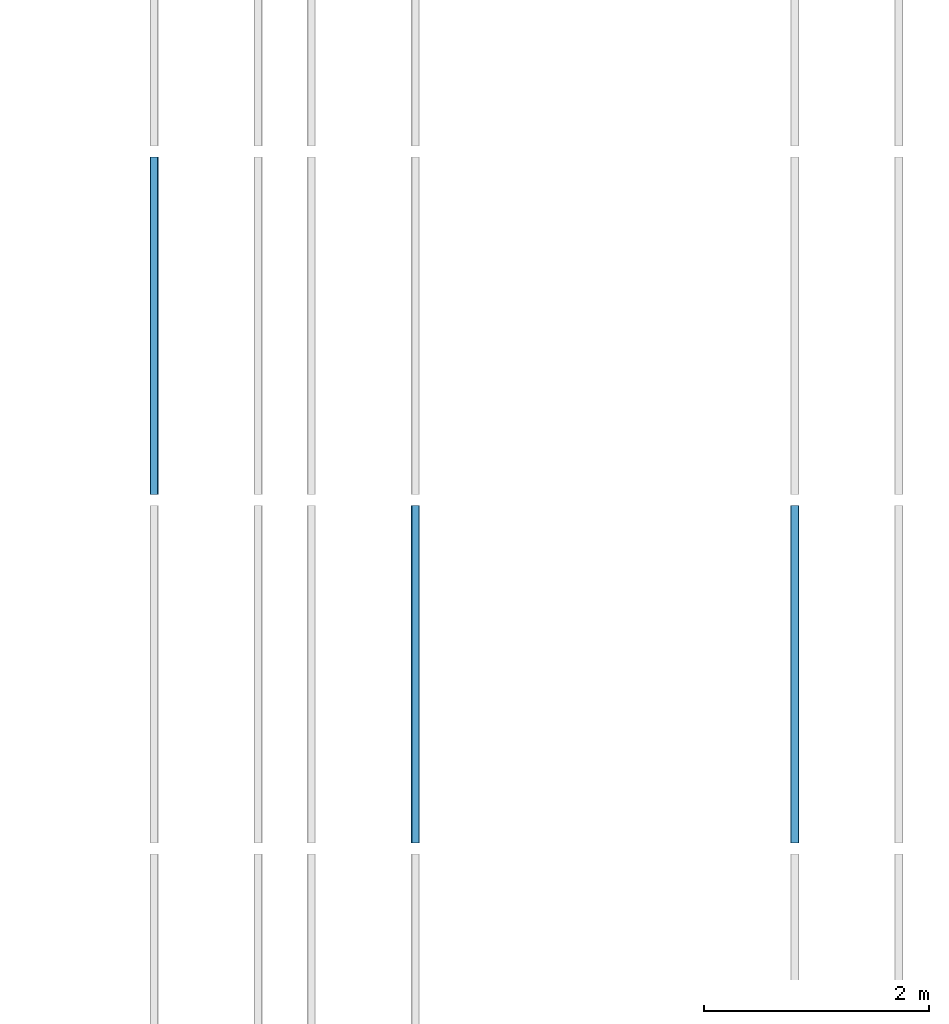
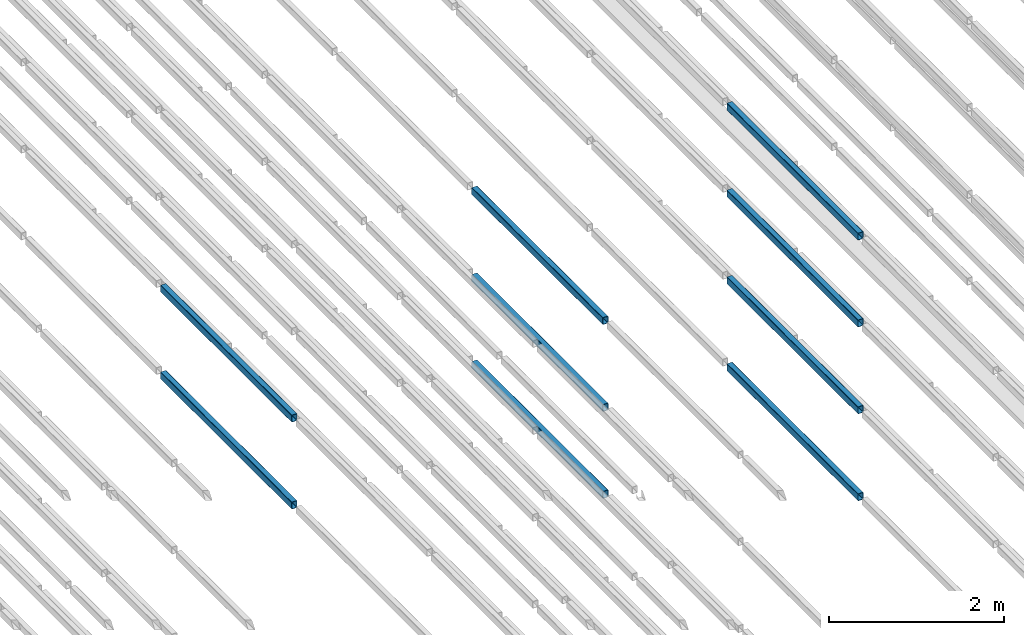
# One storey, part 72 of 290: 9 beams.
"""IFC2X3 building model written with IfcOpenShell, lengths in metres."""

from ifc_helpers import new_model, entity, si_unit, converted_unit, derived_unit, direction, frame, frame_2d, origin, place, context, subcontext, project, spatial, polyline, circle_curve, parameter, trimmed, segment, composite_curve, outline, extrude, material, type_object, element, save


model = new_model("IFC2X3")

# Units and contexts
model_context = context("Model", 3, precision=1e-05, world=origin(), true_north=direction((6.12303176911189e-17, 1.0)))
body_context = subcontext(model_context, "Body", "Model", "MODEL_VIEW")
ifc_project = project(units=[si_unit("LENGTHUNIT", "METRE"), si_unit("AREAUNIT", "SQUARE_METRE"), si_unit("VOLUMEUNIT", "CUBIC_METRE"), converted_unit("PLANEANGLEUNIT", "DEGREE", entity("IfcRatioMeasure", 0.0174532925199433), si_unit("PLANEANGLEUNIT", "RADIAN"), dimensions=[0, 0, 0, 0, 0, 0, 0]), si_unit("MASSUNIT", "GRAM", prefix="KILO"), derived_unit("MASSDENSITYUNIT", [(si_unit("MASSUNIT", "GRAM", prefix="KILO"), 1), (si_unit("LENGTHUNIT", "METRE"), -3)]), derived_unit("MOMENTOFINERTIAUNIT", [(si_unit("LENGTHUNIT", "METRE"), 4)]), si_unit("TIMEUNIT", "SECOND"), si_unit("FREQUENCYUNIT", "HERTZ"), si_unit("THERMODYNAMICTEMPERATUREUNIT", "DEGREE_CELSIUS"), derived_unit("THERMALTRANSMITTANCEUNIT", [(si_unit("MASSUNIT", "GRAM", prefix="KILO"), 1), (si_unit("THERMODYNAMICTEMPERATUREUNIT", "KELVIN"), -1), (si_unit("TIMEUNIT", "SECOND"), -3)]), derived_unit("VOLUMETRICFLOWRATEUNIT", [(si_unit("LENGTHUNIT", "METRE"), 3), (si_unit("TIMEUNIT", "SECOND"), -1)]), si_unit("ELECTRICCURRENTUNIT", "AMPERE"), si_unit("ELECTRICVOLTAGEUNIT", "VOLT"), si_unit("POWERUNIT", "WATT"), si_unit("FORCEUNIT", "NEWTON", prefix="KILO"), si_unit("ILLUMINANCEUNIT", "LUX"), si_unit("LUMINOUSFLUXUNIT", "LUMEN"), si_unit("LUMINOUSINTENSITYUNIT", "CANDELA"), derived_unit("USERDEFINED", [(si_unit("MASSUNIT", "GRAM", prefix="KILO"), -1), (si_unit("LENGTHUNIT", "METRE"), -2), (si_unit("TIMEUNIT", "SECOND"), 3), (si_unit("LUMINOUSFLUXUNIT", "LUMEN"), 1)]), derived_unit("LINEARVELOCITYUNIT", [(si_unit("LENGTHUNIT", "METRE"), 1), (si_unit("TIMEUNIT", "SECOND"), -1)]), si_unit("PRESSUREUNIT", "PASCAL"), derived_unit("USERDEFINED", [(si_unit("LENGTHUNIT", "METRE"), -2), (si_unit("MASSUNIT", "GRAM", prefix="KILO"), 1), (si_unit("TIMEUNIT", "SECOND"), -2)]), derived_unit("LINEARFORCEUNIT", [(si_unit("MASSUNIT", "GRAM", prefix="KILO"), 1), (si_unit("LENGTHUNIT", "METRE"), 1), (si_unit("TIMEUNIT", "SECOND"), -2), (si_unit("LENGTHUNIT", "METRE"), -1)]), derived_unit("PLANARFORCEUNIT", [(si_unit("MASSUNIT", "GRAM", prefix="KILO"), 1), (si_unit("LENGTHUNIT", "METRE"), 1), (si_unit("TIMEUNIT", "SECOND"), -2), (si_unit("LENGTHUNIT", "METRE"), -2)])], contexts=[model_context])

# Site, building, storey
site_placement = place(None, origin())
site = spatial("IfcSite", under=ifc_project, at=site_placement, Name="Default", CompositionType="ELEMENT")
building_placement = place(site_placement, origin())
building = spatial("IfcBuilding", under=site, at=building_placement, CompositionType="ELEMENT")
storey_placement = place(building_placement, frame((0.0, 0.0, 4.0)))
storey = spatial("IfcBuildingStorey", under=building, at=storey_placement, Name="01_OG", CompositionType="ELEMENT", Elevation=4.0)

# Beams
ifc_material = material(Name="Metall - Baustahl S235 blau")
beam_type = type_object("IfcBeamType", Name="RHS Träger (EN 10219-2):RHS 100 x 75 x 5", PredefinedType="NOTDEFINED")
beam_1_placement = place(storey_placement, frame((-182.765111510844, 33.348088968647, 0.0150000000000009), z_axis=(0.0, 0.0, 1.0), x_axis=(0.0, 1.0, 0.0)))
element("IfcBeam", 1, at=beam_1_placement, inside=storey, type_object=beam_type, material=ifc_material, Name="RHS Träger (EN 10219-2):RHS 100 x 75 x 5", ObjectType="RHS Träger (EN 10219-2):RHS 100 x 75 x 5", context=body_context, shape_type="SweptSolid", body=[
    extrude(outline(composite_curve([segment(polyline([(-0.0400000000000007, -0.0374999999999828), (0.0399999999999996, -0.0374999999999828)]), True, "CONTINUOUS"), segment(trimmed(circle_curve(frame_2d((0.0399999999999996, -0.0274999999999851), x_axis=(0.0, 1.0)), 0.01), [parameter(180.0)], [parameter(270.0)], True, "PARAMETER"), True, "CONTINUOUS"), segment(polyline([(0.0499999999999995, -0.0274999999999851), (0.0499999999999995, 0.0274999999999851)]), True, "CONTINUOUS"), segment(trimmed(circle_curve(frame_2d((0.0399999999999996, 0.0274999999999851), x_axis=(0.0, 1.0)), 0.01), [parameter(270.0)], [parameter(4.07110999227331e-13)], True, "PARAMETER"), True, "CONTINUOUS"), segment(polyline([(0.0399999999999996, 0.0375000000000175), (-0.0400000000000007, 0.0375000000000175)]), True, "CONTINUOUS"), segment(trimmed(circle_curve(frame_2d((-0.0400000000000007, 0.0274999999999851), x_axis=(0.0, 1.0)), 0.01), [parameter(360.0)], [parameter(90.0000000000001)], True, "PARAMETER"), True, "CONTINUOUS"), segment(polyline([(-0.0500000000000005, 0.0274999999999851), (-0.0500000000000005, -0.0274999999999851)]), True, "CONTINUOUS"), segment(trimmed(circle_curve(frame_2d((-0.0400000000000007, -0.0274999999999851), x_axis=(0.0, 1.0)), 0.01), [parameter(90.0000000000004)], [parameter(180.0)], True, "PARAMETER"), True, "CONTINUOUS")], self_intersect=False), holes=[composite_curve([segment(trimmed(circle_curve(frame_2d((-0.0400000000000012, 0.0274999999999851), x_axis=(0.0, 1.0)), 0.005), [parameter(360.0)], [parameter(89.9999999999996)], True, "PARAMETER"), False, "CONTINUOUS"), segment(polyline([(-0.0400000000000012, 0.0325000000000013), (0.0399999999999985, 0.0325000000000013)]), True, "CONTINUOUS"), segment(trimmed(circle_curve(frame_2d((0.0399999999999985, 0.0274999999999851), x_axis=(0.0, 1.0)), 0.005), [parameter(270.0)], [parameter(0.0)], True, "PARAMETER"), False, "CONTINUOUS"), segment(polyline([(0.0449999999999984, 0.0274999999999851), (0.0449999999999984, -0.0274999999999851)]), True, "CONTINUOUS"), segment(trimmed(circle_curve(frame_2d((0.0399999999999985, -0.0274999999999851), x_axis=(0.0, 1.0)), 0.005), [parameter(180.0)], [parameter(269.999999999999)], True, "PARAMETER"), False, "CONTINUOUS"), segment(polyline([(0.0399999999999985, -0.0325000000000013), (-0.0400000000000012, -0.0325000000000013)]), True, "CONTINUOUS"), segment(trimmed(circle_curve(frame_2d((-0.0400000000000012, -0.0274999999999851), x_axis=(0.0, 1.0)), 0.005), [parameter(90.0000000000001)], [parameter(180.0)], True, "PARAMETER"), False, "CONTINUOUS"), segment(polyline([(-0.0450000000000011, -0.0274999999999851), (-0.0450000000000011, 0.0274999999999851)]), True, "CONTINUOUS")], self_intersect=False)]), frame((9.9999999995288e-05, -0.0375000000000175, -0.0500000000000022), z_axis=(1.0, 0.0, 0.0), x_axis=(0.0, 0.0, -1.0)), (0.0, 0.0, 1.0), 2.9998),
])
beam_2_placement = place(storey_placement, frame((-182.765111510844, 33.348088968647, 1.23), z_axis=(0.0, 0.0, 1.0), x_axis=(0.0, 1.0, 0.0)))
element("IfcBeam", 2, at=beam_2_placement, inside=storey, type_object=beam_type, material=ifc_material, Name="RHS Träger (EN 10219-2):RHS 100 x 75 x 5", ObjectType="RHS Träger (EN 10219-2):RHS 100 x 75 x 5", context=body_context, shape_type="SweptSolid", body=[
    extrude(outline(composite_curve([segment(polyline([(-0.0399999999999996, -0.0374999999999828), (0.0399999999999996, -0.0374999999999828)]), True, "CONTINUOUS"), segment(trimmed(circle_curve(frame_2d((0.0399999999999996, -0.0274999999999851), x_axis=(0.0, 1.0)), 0.01), [parameter(180.0)], [parameter(270.0)], True, "PARAMETER"), True, "CONTINUOUS"), segment(polyline([(0.0500000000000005, -0.0274999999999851), (0.0500000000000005, 0.0274999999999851)]), True, "CONTINUOUS"), segment(trimmed(circle_curve(frame_2d((0.0399999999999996, 0.0274999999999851), x_axis=(0.0, 1.0)), 0.01), [parameter(270.0)], [parameter(4.07110999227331e-13)], True, "PARAMETER"), True, "CONTINUOUS"), segment(polyline([(0.0399999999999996, 0.0375000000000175), (-0.0399999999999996, 0.0375000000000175)]), True, "CONTINUOUS"), segment(trimmed(circle_curve(frame_2d((-0.0399999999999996, 0.0274999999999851), x_axis=(0.0, 1.0)), 0.01), [parameter(360.0)], [parameter(90.0000000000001)], True, "PARAMETER"), True, "CONTINUOUS"), segment(polyline([(-0.0499999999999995, 0.0274999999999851), (-0.0499999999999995, -0.0274999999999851)]), True, "CONTINUOUS"), segment(trimmed(circle_curve(frame_2d((-0.0399999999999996, -0.0274999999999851), x_axis=(0.0, 1.0)), 0.01), [parameter(90.0000000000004)], [parameter(180.0)], True, "PARAMETER"), True, "CONTINUOUS")], self_intersect=False), holes=[composite_curve([segment(trimmed(circle_curve(frame_2d((-0.0400000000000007, 0.0274999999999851), x_axis=(0.0, 1.0)), 0.005), [parameter(360.0)], [parameter(89.9999999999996)], True, "PARAMETER"), False, "CONTINUOUS"), segment(polyline([(-0.0400000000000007, 0.0325000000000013), (0.0399999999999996, 0.0325000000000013)]), True, "CONTINUOUS"), segment(trimmed(circle_curve(frame_2d((0.0399999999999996, 0.0274999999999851), x_axis=(0.0, 1.0)), 0.005), [parameter(270.0)], [parameter(0.0)], True, "PARAMETER"), False, "CONTINUOUS"), segment(polyline([(0.0449999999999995, 0.0274999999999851), (0.0449999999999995, -0.0274999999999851)]), True, "CONTINUOUS"), segment(trimmed(circle_curve(frame_2d((0.0399999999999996, -0.0274999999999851), x_axis=(0.0, 1.0)), 0.005), [parameter(180.0)], [parameter(269.999999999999)], True, "PARAMETER"), False, "CONTINUOUS"), segment(polyline([(0.0399999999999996, -0.0325000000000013), (-0.0400000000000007, -0.0325000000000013)]), True, "CONTINUOUS"), segment(trimmed(circle_curve(frame_2d((-0.0400000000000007, -0.0274999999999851), x_axis=(0.0, 1.0)), 0.005), [parameter(90.0000000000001)], [parameter(180.0)], True, "PARAMETER"), False, "CONTINUOUS"), segment(polyline([(-0.0450000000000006, -0.0274999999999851), (-0.0450000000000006, 0.0274999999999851)]), True, "CONTINUOUS")], self_intersect=False)]), frame((9.99999999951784e-05, -0.0375000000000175, -0.0500000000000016), z_axis=(1.0, 0.0, 0.0), x_axis=(0.0, 0.0, -1.0)), (0.0, 0.0, 1.0), 2.9998),
])
beam_3_placement = place(storey_placement, frame((-182.765111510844, 33.348088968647, 2.445), z_axis=(0.0, 0.0, 1.0), x_axis=(0.0, 1.0, 0.0)))
element("IfcBeam", 3, at=beam_3_placement, inside=storey, type_object=beam_type, material=ifc_material, Name="RHS Träger (EN 10219-2):RHS 100 x 75 x 5", ObjectType="RHS Träger (EN 10219-2):RHS 100 x 75 x 5", context=body_context, shape_type="SweptSolid", body=[
    extrude(outline(composite_curve([segment(polyline([(-0.0399999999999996, -0.0374999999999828), (0.0399999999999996, -0.0374999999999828)]), True, "CONTINUOUS"), segment(trimmed(circle_curve(frame_2d((0.0399999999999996, -0.0274999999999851), x_axis=(0.0, 1.0)), 0.01), [parameter(180.0)], [parameter(270.0)], True, "PARAMETER"), True, "CONTINUOUS"), segment(polyline([(0.0500000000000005, -0.0274999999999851), (0.0500000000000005, 0.0274999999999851)]), True, "CONTINUOUS"), segment(trimmed(circle_curve(frame_2d((0.0399999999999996, 0.0274999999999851), x_axis=(0.0, 1.0)), 0.01), [parameter(270.0)], [parameter(4.07110999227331e-13)], True, "PARAMETER"), True, "CONTINUOUS"), segment(polyline([(0.0399999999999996, 0.0375000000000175), (-0.0399999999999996, 0.0375000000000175)]), True, "CONTINUOUS"), segment(trimmed(circle_curve(frame_2d((-0.0399999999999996, 0.0274999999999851), x_axis=(0.0, 1.0)), 0.01), [parameter(360.0)], [parameter(90.0000000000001)], True, "PARAMETER"), True, "CONTINUOUS"), segment(polyline([(-0.0499999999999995, 0.0274999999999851), (-0.0499999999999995, -0.0274999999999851)]), True, "CONTINUOUS"), segment(trimmed(circle_curve(frame_2d((-0.0399999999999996, -0.0274999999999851), x_axis=(0.0, 1.0)), 0.01), [parameter(90.0000000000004)], [parameter(180.0)], True, "PARAMETER"), True, "CONTINUOUS")], self_intersect=False), holes=[composite_curve([segment(trimmed(circle_curve(frame_2d((-0.0400000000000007, 0.0274999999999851), x_axis=(0.0, 1.0)), 0.005), [parameter(360.0)], [parameter(89.9999999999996)], True, "PARAMETER"), False, "CONTINUOUS"), segment(polyline([(-0.0400000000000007, 0.0325000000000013), (0.0399999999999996, 0.0325000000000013)]), True, "CONTINUOUS"), segment(trimmed(circle_curve(frame_2d((0.0399999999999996, 0.0274999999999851), x_axis=(0.0, 1.0)), 0.005), [parameter(270.0)], [parameter(0.0)], True, "PARAMETER"), False, "CONTINUOUS"), segment(polyline([(0.0449999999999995, 0.0274999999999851), (0.0449999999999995, -0.0274999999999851)]), True, "CONTINUOUS"), segment(trimmed(circle_curve(frame_2d((0.0399999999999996, -0.0274999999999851), x_axis=(0.0, 1.0)), 0.005), [parameter(180.0)], [parameter(269.999999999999)], True, "PARAMETER"), False, "CONTINUOUS"), segment(polyline([(0.0399999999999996, -0.0325000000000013), (-0.0400000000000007, -0.0325000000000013)]), True, "CONTINUOUS"), segment(trimmed(circle_curve(frame_2d((-0.0400000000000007, -0.0274999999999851), x_axis=(0.0, 1.0)), 0.005), [parameter(90.0000000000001)], [parameter(180.0)], True, "PARAMETER"), False, "CONTINUOUS"), segment(polyline([(-0.0450000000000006, -0.0274999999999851), (-0.0450000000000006, 0.0274999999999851)]), True, "CONTINUOUS")], self_intersect=False)]), frame((9.99999999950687e-05, -0.0375000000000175, -0.0500000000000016), z_axis=(1.0, 0.0, 0.0), x_axis=(0.0, 0.0, -1.0)), (0.0, 0.0, 1.0), 2.9998),
])
beam_4_placement = place(storey_placement, frame((-179.315111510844, 33.3480889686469, -1.2), z_axis=(0.0, 0.0, 1.0), x_axis=(0.0, 1.0, 0.0)))
element("IfcBeam", 4, at=beam_4_placement, inside=storey, type_object=beam_type, material=ifc_material, Name="RHS Träger (EN 10219-2):RHS 100 x 75 x 5", ObjectType="RHS Träger (EN 10219-2):RHS 100 x 75 x 5", context=body_context, shape_type="SweptSolid", body=[
    extrude(outline(composite_curve([segment(trimmed(circle_curve(frame_2d((-0.0274999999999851, -0.0400000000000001), x_axis=(1.0, 0.0)), 0.01), [parameter(180.0)], [parameter(270.0)], True, "PARAMETER"), True, "CONTINUOUS"), segment(polyline([(-0.0274999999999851, -0.05), (0.0274999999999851, -0.05)]), True, "CONTINUOUS"), segment(trimmed(circle_curve(frame_2d((0.0274999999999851, -0.0400000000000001), x_axis=(1.0, 0.0)), 0.01), [parameter(270.0)], [parameter(5.08888749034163e-14)], True, "PARAMETER"), True, "CONTINUOUS"), segment(polyline([(0.0375000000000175, -0.0400000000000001), (0.0375000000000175, 0.0400000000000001)]), True, "CONTINUOUS"), segment(trimmed(circle_curve(frame_2d((0.0274999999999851, 0.0400000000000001), x_axis=(1.0, 0.0)), 0.01), [parameter(360.0)], [parameter(89.9999999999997)], True, "PARAMETER"), True, "CONTINUOUS"), segment(polyline([(0.0274999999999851, 0.05), (-0.0274999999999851, 0.05)]), True, "CONTINUOUS"), segment(trimmed(circle_curve(frame_2d((-0.0274999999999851, 0.0400000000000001), x_axis=(1.0, 0.0)), 0.01), [parameter(90.0000000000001)], [parameter(180.0)], True, "PARAMETER"), True, "CONTINUOUS"), segment(polyline([(-0.0374999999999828, 0.0400000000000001), (-0.0374999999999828, -0.0400000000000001)]), True, "CONTINUOUS")], self_intersect=False), holes=[composite_curve([segment(polyline([(0.0274999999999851, -0.0450000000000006), (-0.0274999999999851, -0.0450000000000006)]), True, "CONTINUOUS"), segment(trimmed(circle_curve(frame_2d((-0.0274999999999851, -0.0400000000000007), x_axis=(1.0, 0.0)), 0.005), [parameter(180.0)], [parameter(270.0)], True, "PARAMETER"), False, "CONTINUOUS"), segment(polyline([(-0.0325000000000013, -0.0400000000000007), (-0.0325000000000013, 0.039999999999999)]), True, "CONTINUOUS"), segment(trimmed(circle_curve(frame_2d((-0.0274999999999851, 0.039999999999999), x_axis=(1.0, 0.0)), 0.005), [parameter(90.0000000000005)], [parameter(180.0)], True, "PARAMETER"), False, "CONTINUOUS"), segment(polyline([(-0.0274999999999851, 0.044999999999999), (0.0274999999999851, 0.044999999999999)]), True, "CONTINUOUS"), segment(trimmed(circle_curve(frame_2d((0.0274999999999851, 0.039999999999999), x_axis=(1.0, 0.0)), 0.005), [parameter(0.0)], [parameter(90.0000000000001)], True, "PARAMETER"), False, "CONTINUOUS"), segment(polyline([(0.0325000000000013, 0.039999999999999), (0.0325000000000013, -0.0400000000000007)]), True, "CONTINUOUS"), segment(trimmed(circle_curve(frame_2d((0.0274999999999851, -0.0400000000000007), x_axis=(1.0, 0.0)), 0.005), [parameter(270.0)], [parameter(4.07110999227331e-13)], True, "PARAMETER"), False, "CONTINUOUS")], self_intersect=False)]), frame((9.99999999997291e-05, 0.0375000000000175, -0.0500000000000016), z_axis=(1.0, 0.0, 0.0), x_axis=(0.0, -1.0, 0.0)), (0.0, 0.0, 1.0), 2.9998),
])
beam_5_placement = place(storey_placement, frame((-179.315111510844, 33.3480889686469, 0.0150000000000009), z_axis=(0.0, 0.0, 1.0), x_axis=(0.0, 1.0, 0.0)))
element("IfcBeam", 5, at=beam_5_placement, inside=storey, type_object=beam_type, material=ifc_material, Name="RHS Träger (EN 10219-2):RHS 100 x 75 x 5", ObjectType="RHS Träger (EN 10219-2):RHS 100 x 75 x 5", context=body_context, shape_type="SweptSolid", body=[
    extrude(outline(composite_curve([segment(trimmed(circle_curve(frame_2d((-0.0274999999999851, -0.0400000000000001), x_axis=(1.0, 0.0)), 0.01), [parameter(180.0)], [parameter(270.0)], True, "PARAMETER"), True, "CONTINUOUS"), segment(polyline([(-0.0274999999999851, -0.05), (0.0274999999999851, -0.05)]), True, "CONTINUOUS"), segment(trimmed(circle_curve(frame_2d((0.0274999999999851, -0.0400000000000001), x_axis=(1.0, 0.0)), 0.01), [parameter(270.0)], [parameter(5.08888749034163e-14)], True, "PARAMETER"), True, "CONTINUOUS"), segment(polyline([(0.0375000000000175, -0.0400000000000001), (0.0375000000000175, 0.0400000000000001)]), True, "CONTINUOUS"), segment(trimmed(circle_curve(frame_2d((0.0274999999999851, 0.0400000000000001), x_axis=(1.0, 0.0)), 0.01), [parameter(360.0)], [parameter(89.9999999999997)], True, "PARAMETER"), True, "CONTINUOUS"), segment(polyline([(0.0274999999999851, 0.05), (-0.0274999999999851, 0.05)]), True, "CONTINUOUS"), segment(trimmed(circle_curve(frame_2d((-0.0274999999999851, 0.0400000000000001), x_axis=(1.0, 0.0)), 0.01), [parameter(90.0000000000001)], [parameter(180.0)], True, "PARAMETER"), True, "CONTINUOUS"), segment(polyline([(-0.0374999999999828, 0.0400000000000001), (-0.0374999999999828, -0.0400000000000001)]), True, "CONTINUOUS")], self_intersect=False), holes=[composite_curve([segment(polyline([(0.0274999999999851, -0.0450000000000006), (-0.0274999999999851, -0.0450000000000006)]), True, "CONTINUOUS"), segment(trimmed(circle_curve(frame_2d((-0.0274999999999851, -0.0400000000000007), x_axis=(1.0, 0.0)), 0.005), [parameter(180.0)], [parameter(270.0)], True, "PARAMETER"), False, "CONTINUOUS"), segment(polyline([(-0.0325000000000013, -0.0400000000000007), (-0.0325000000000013, 0.039999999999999)]), True, "CONTINUOUS"), segment(trimmed(circle_curve(frame_2d((-0.0274999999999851, 0.039999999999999), x_axis=(1.0, 0.0)), 0.005), [parameter(90.0000000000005)], [parameter(180.0)], True, "PARAMETER"), False, "CONTINUOUS"), segment(polyline([(-0.0274999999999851, 0.044999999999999), (0.0274999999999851, 0.044999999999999)]), True, "CONTINUOUS"), segment(trimmed(circle_curve(frame_2d((0.0274999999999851, 0.039999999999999), x_axis=(1.0, 0.0)), 0.005), [parameter(0.0)], [parameter(90.0000000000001)], True, "PARAMETER"), False, "CONTINUOUS"), segment(polyline([(0.0325000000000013, 0.039999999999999), (0.0325000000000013, -0.0400000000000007)]), True, "CONTINUOUS"), segment(trimmed(circle_curve(frame_2d((0.0274999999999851, -0.0400000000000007), x_axis=(1.0, 0.0)), 0.005), [parameter(270.0)], [parameter(4.07110999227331e-13)], True, "PARAMETER"), False, "CONTINUOUS")], self_intersect=False)]), frame((9.99999999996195e-05, 0.0375000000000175, -0.0500000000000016), z_axis=(1.0, 0.0, 0.0), x_axis=(0.0, -1.0, 0.0)), (0.0, 0.0, 1.0), 2.9998),
])
beam_6_placement = place(storey_placement, frame((-179.315111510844, 33.3480889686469, 1.23), z_axis=(0.0, 0.0, 1.0), x_axis=(0.0, 1.0, 0.0)))
element("IfcBeam", 6, at=beam_6_placement, inside=storey, type_object=beam_type, material=ifc_material, Name="RHS Träger (EN 10219-2):RHS 100 x 75 x 5", ObjectType="RHS Träger (EN 10219-2):RHS 100 x 75 x 5", context=body_context, shape_type="SweptSolid", body=[
    extrude(outline(composite_curve([segment(trimmed(circle_curve(frame_2d((-0.0274999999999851, -0.0399999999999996), x_axis=(1.0, 0.0)), 0.01), [parameter(180.0)], [parameter(270.0)], True, "PARAMETER"), True, "CONTINUOUS"), segment(polyline([(-0.0274999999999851, -0.0499999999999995), (0.0274999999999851, -0.0499999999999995)]), True, "CONTINUOUS"), segment(trimmed(circle_curve(frame_2d((0.0274999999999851, -0.0399999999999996), x_axis=(1.0, 0.0)), 0.01), [parameter(270.0)], [parameter(5.08888749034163e-14)], True, "PARAMETER"), True, "CONTINUOUS"), segment(polyline([(0.0375000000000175, -0.0399999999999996), (0.0375000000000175, 0.0399999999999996)]), True, "CONTINUOUS"), segment(trimmed(circle_curve(frame_2d((0.0274999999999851, 0.0399999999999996), x_axis=(1.0, 0.0)), 0.01), [parameter(360.0)], [parameter(89.9999999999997)], True, "PARAMETER"), True, "CONTINUOUS"), segment(polyline([(0.0274999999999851, 0.0500000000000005), (-0.0274999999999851, 0.0500000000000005)]), True, "CONTINUOUS"), segment(trimmed(circle_curve(frame_2d((-0.0274999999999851, 0.0399999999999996), x_axis=(1.0, 0.0)), 0.01), [parameter(90.0000000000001)], [parameter(180.0)], True, "PARAMETER"), True, "CONTINUOUS"), segment(polyline([(-0.0374999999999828, 0.0399999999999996), (-0.0374999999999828, -0.0399999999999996)]), True, "CONTINUOUS")], self_intersect=False), holes=[composite_curve([segment(polyline([(0.0274999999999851, -0.0450000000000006), (-0.0274999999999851, -0.0450000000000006)]), True, "CONTINUOUS"), segment(trimmed(circle_curve(frame_2d((-0.0274999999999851, -0.0400000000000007), x_axis=(1.0, 0.0)), 0.005), [parameter(180.0)], [parameter(270.0)], True, "PARAMETER"), False, "CONTINUOUS"), segment(polyline([(-0.0325000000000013, -0.0400000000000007), (-0.0325000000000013, 0.0399999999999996)]), True, "CONTINUOUS"), segment(trimmed(circle_curve(frame_2d((-0.0274999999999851, 0.0399999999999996), x_axis=(1.0, 0.0)), 0.005), [parameter(90.0000000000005)], [parameter(180.0)], True, "PARAMETER"), False, "CONTINUOUS"), segment(polyline([(-0.0274999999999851, 0.0449999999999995), (0.0274999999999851, 0.0449999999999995)]), True, "CONTINUOUS"), segment(trimmed(circle_curve(frame_2d((0.0274999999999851, 0.0399999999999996), x_axis=(1.0, 0.0)), 0.005), [parameter(0.0)], [parameter(90.0000000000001)], True, "PARAMETER"), False, "CONTINUOUS"), segment(polyline([(0.0325000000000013, 0.0399999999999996), (0.0325000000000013, -0.0400000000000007)]), True, "CONTINUOUS"), segment(trimmed(circle_curve(frame_2d((0.0274999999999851, -0.0400000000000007), x_axis=(1.0, 0.0)), 0.005), [parameter(270.0)], [parameter(4.07110999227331e-13)], True, "PARAMETER"), False, "CONTINUOUS")], self_intersect=False)]), frame((9.99999999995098e-05, 0.0375000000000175, -0.0500000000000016), z_axis=(1.0, 0.0, 0.0), x_axis=(0.0, -1.0, 0.0)), (0.0, 0.0, 1.0), 2.9998),
])
beam_7_placement = place(storey_placement, frame((-179.315111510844, 33.3480889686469, 2.445), z_axis=(0.0, 0.0, 1.0), x_axis=(0.0, 1.0, 0.0)))
element("IfcBeam", 7, at=beam_7_placement, inside=storey, type_object=beam_type, material=ifc_material, Name="RHS Träger (EN 10219-2):RHS 100 x 75 x 5", ObjectType="RHS Träger (EN 10219-2):RHS 100 x 75 x 5", context=body_context, shape_type="SweptSolid", body=[
    extrude(outline(composite_curve([segment(trimmed(circle_curve(frame_2d((-0.0274999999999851, -0.0399999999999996), x_axis=(1.0, 0.0)), 0.01), [parameter(180.0)], [parameter(270.0)], True, "PARAMETER"), True, "CONTINUOUS"), segment(polyline([(-0.0274999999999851, -0.0499999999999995), (0.0274999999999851, -0.0499999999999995)]), True, "CONTINUOUS"), segment(trimmed(circle_curve(frame_2d((0.0274999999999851, -0.0399999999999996), x_axis=(1.0, 0.0)), 0.01), [parameter(270.0)], [parameter(5.08888749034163e-14)], True, "PARAMETER"), True, "CONTINUOUS"), segment(polyline([(0.0375000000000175, -0.0399999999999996), (0.0375000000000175, 0.0399999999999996)]), True, "CONTINUOUS"), segment(trimmed(circle_curve(frame_2d((0.0274999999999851, 0.0399999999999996), x_axis=(1.0, 0.0)), 0.01), [parameter(360.0)], [parameter(89.9999999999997)], True, "PARAMETER"), True, "CONTINUOUS"), segment(polyline([(0.0274999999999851, 0.0500000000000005), (-0.0274999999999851, 0.0500000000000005)]), True, "CONTINUOUS"), segment(trimmed(circle_curve(frame_2d((-0.0274999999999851, 0.0399999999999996), x_axis=(1.0, 0.0)), 0.01), [parameter(90.0000000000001)], [parameter(180.0)], True, "PARAMETER"), True, "CONTINUOUS"), segment(polyline([(-0.0374999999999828, 0.0399999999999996), (-0.0374999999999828, -0.0399999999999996)]), True, "CONTINUOUS")], self_intersect=False), holes=[composite_curve([segment(polyline([(0.0274999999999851, -0.0450000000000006), (-0.0274999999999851, -0.0450000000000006)]), True, "CONTINUOUS"), segment(trimmed(circle_curve(frame_2d((-0.0274999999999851, -0.0400000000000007), x_axis=(1.0, 0.0)), 0.005), [parameter(180.0)], [parameter(270.0)], True, "PARAMETER"), False, "CONTINUOUS"), segment(polyline([(-0.0325000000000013, -0.0400000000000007), (-0.0325000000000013, 0.0399999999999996)]), True, "CONTINUOUS"), segment(trimmed(circle_curve(frame_2d((-0.0274999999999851, 0.0399999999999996), x_axis=(1.0, 0.0)), 0.005), [parameter(90.0000000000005)], [parameter(180.0)], True, "PARAMETER"), False, "CONTINUOUS"), segment(polyline([(-0.0274999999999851, 0.0449999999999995), (0.0274999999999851, 0.0449999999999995)]), True, "CONTINUOUS"), segment(trimmed(circle_curve(frame_2d((0.0274999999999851, 0.0399999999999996), x_axis=(1.0, 0.0)), 0.005), [parameter(0.0)], [parameter(90.0000000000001)], True, "PARAMETER"), False, "CONTINUOUS"), segment(polyline([(0.0325000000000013, 0.0399999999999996), (0.0325000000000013, -0.0400000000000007)]), True, "CONTINUOUS"), segment(trimmed(circle_curve(frame_2d((0.0274999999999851, -0.0400000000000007), x_axis=(1.0, 0.0)), 0.005), [parameter(270.0)], [parameter(4.07110999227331e-13)], True, "PARAMETER"), False, "CONTINUOUS")], self_intersect=False)]), frame((9.99999999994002e-05, 0.0375000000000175, -0.0500000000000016), z_axis=(1.0, 0.0, 0.0), x_axis=(0.0, -1.0, 0.0)), (0.0, 0.0, 1.0), 2.9998),
])
beam_8_placement = place(storey_placement, frame((-185.015111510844, 36.448088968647, -1.2), z_axis=(0.0, 0.0, 1.0), x_axis=(0.0, 1.0, 0.0)))
element("IfcBeam", 8, at=beam_8_placement, inside=storey, type_object=beam_type, material=ifc_material, Name="RHS Träger (EN 10219-2):RHS 100 x 75 x 5", ObjectType="RHS Träger (EN 10219-2):RHS 100 x 75 x 5", context=body_context, shape_type="SweptSolid", body=[
    extrude(outline(composite_curve([segment(trimmed(circle_curve(frame_2d((-0.0274999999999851, -0.0400000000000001), x_axis=(1.0, 0.0)), 0.01), [parameter(180.0)], [parameter(270.0)], True, "PARAMETER"), True, "CONTINUOUS"), segment(polyline([(-0.0274999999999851, -0.05), (0.0274999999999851, -0.05)]), True, "CONTINUOUS"), segment(trimmed(circle_curve(frame_2d((0.0274999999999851, -0.0400000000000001), x_axis=(1.0, 0.0)), 0.01), [parameter(270.0)], [parameter(5.08888749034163e-14)], True, "PARAMETER"), True, "CONTINUOUS"), segment(polyline([(0.0375000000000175, -0.0400000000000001), (0.0375000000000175, 0.0400000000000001)]), True, "CONTINUOUS"), segment(trimmed(circle_curve(frame_2d((0.0274999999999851, 0.0400000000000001), x_axis=(1.0, 0.0)), 0.01), [parameter(360.0)], [parameter(89.9999999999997)], True, "PARAMETER"), True, "CONTINUOUS"), segment(polyline([(0.0274999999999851, 0.05), (-0.0274999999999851, 0.05)]), True, "CONTINUOUS"), segment(trimmed(circle_curve(frame_2d((-0.0274999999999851, 0.0400000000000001), x_axis=(1.0, 0.0)), 0.01), [parameter(90.0000000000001)], [parameter(180.0)], True, "PARAMETER"), True, "CONTINUOUS"), segment(polyline([(-0.0374999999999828, 0.0400000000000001), (-0.0374999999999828, -0.0400000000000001)]), True, "CONTINUOUS")], self_intersect=False), holes=[composite_curve([segment(polyline([(0.0274999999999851, -0.0450000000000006), (-0.0274999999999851, -0.0450000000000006)]), True, "CONTINUOUS"), segment(trimmed(circle_curve(frame_2d((-0.0274999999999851, -0.0400000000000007), x_axis=(1.0, 0.0)), 0.005), [parameter(180.0)], [parameter(270.0)], True, "PARAMETER"), False, "CONTINUOUS"), segment(polyline([(-0.0325000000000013, -0.0400000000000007), (-0.0325000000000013, 0.039999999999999)]), True, "CONTINUOUS"), segment(trimmed(circle_curve(frame_2d((-0.0274999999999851, 0.039999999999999), x_axis=(1.0, 0.0)), 0.005), [parameter(90.0000000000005)], [parameter(180.0)], True, "PARAMETER"), False, "CONTINUOUS"), segment(polyline([(-0.0274999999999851, 0.044999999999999), (0.0274999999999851, 0.044999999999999)]), True, "CONTINUOUS"), segment(trimmed(circle_curve(frame_2d((0.0274999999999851, 0.039999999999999), x_axis=(1.0, 0.0)), 0.005), [parameter(0.0)], [parameter(90.0000000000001)], True, "PARAMETER"), False, "CONTINUOUS"), segment(polyline([(0.0325000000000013, 0.039999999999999), (0.0325000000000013, -0.0400000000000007)]), True, "CONTINUOUS"), segment(trimmed(circle_curve(frame_2d((0.0274999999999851, -0.0400000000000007), x_axis=(1.0, 0.0)), 0.005), [parameter(270.0)], [parameter(4.07110999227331e-13)], True, "PARAMETER"), False, "CONTINUOUS")], self_intersect=False)]), frame((0.000100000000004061, 0.0375000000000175, -0.0500000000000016), z_axis=(1.0, 0.0, 0.0), x_axis=(0.0, -1.0, 0.0)), (0.0, 0.0, 1.0), 2.9998),
])
beam_9_placement = place(storey_placement, frame((-185.015111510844, 36.448088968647, 0.0150000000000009), z_axis=(0.0, 0.0, 1.0), x_axis=(0.0, 1.0, 0.0)))
element("IfcBeam", 9, at=beam_9_placement, inside=storey, type_object=beam_type, material=ifc_material, Name="RHS Träger (EN 10219-2):RHS 100 x 75 x 5", ObjectType="RHS Träger (EN 10219-2):RHS 100 x 75 x 5", context=body_context, shape_type="SweptSolid", body=[
    extrude(outline(composite_curve([segment(trimmed(circle_curve(frame_2d((-0.0274999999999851, -0.0400000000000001), x_axis=(1.0, 0.0)), 0.01), [parameter(180.0)], [parameter(270.0)], True, "PARAMETER"), True, "CONTINUOUS"), segment(polyline([(-0.0274999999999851, -0.05), (0.0274999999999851, -0.05)]), True, "CONTINUOUS"), segment(trimmed(circle_curve(frame_2d((0.0274999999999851, -0.0400000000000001), x_axis=(1.0, 0.0)), 0.01), [parameter(270.0)], [parameter(5.08888749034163e-14)], True, "PARAMETER"), True, "CONTINUOUS"), segment(polyline([(0.0375000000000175, -0.0400000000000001), (0.0375000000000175, 0.0400000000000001)]), True, "CONTINUOUS"), segment(trimmed(circle_curve(frame_2d((0.0274999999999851, 0.0400000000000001), x_axis=(1.0, 0.0)), 0.01), [parameter(360.0)], [parameter(89.9999999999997)], True, "PARAMETER"), True, "CONTINUOUS"), segment(polyline([(0.0274999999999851, 0.05), (-0.0274999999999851, 0.05)]), True, "CONTINUOUS"), segment(trimmed(circle_curve(frame_2d((-0.0274999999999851, 0.0400000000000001), x_axis=(1.0, 0.0)), 0.01), [parameter(90.0000000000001)], [parameter(180.0)], True, "PARAMETER"), True, "CONTINUOUS"), segment(polyline([(-0.0374999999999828, 0.0400000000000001), (-0.0374999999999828, -0.0400000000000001)]), True, "CONTINUOUS")], self_intersect=False), holes=[composite_curve([segment(polyline([(0.0274999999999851, -0.0450000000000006), (-0.0274999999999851, -0.0450000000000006)]), True, "CONTINUOUS"), segment(trimmed(circle_curve(frame_2d((-0.0274999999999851, -0.0400000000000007), x_axis=(1.0, 0.0)), 0.005), [parameter(180.0)], [parameter(270.0)], True, "PARAMETER"), False, "CONTINUOUS"), segment(polyline([(-0.0325000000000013, -0.0400000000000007), (-0.0325000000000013, 0.039999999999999)]), True, "CONTINUOUS"), segment(trimmed(circle_curve(frame_2d((-0.0274999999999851, 0.039999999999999), x_axis=(1.0, 0.0)), 0.005), [parameter(90.0000000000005)], [parameter(180.0)], True, "PARAMETER"), False, "CONTINUOUS"), segment(polyline([(-0.0274999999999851, 0.044999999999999), (0.0274999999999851, 0.044999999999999)]), True, "CONTINUOUS"), segment(trimmed(circle_curve(frame_2d((0.0274999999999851, 0.039999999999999), x_axis=(1.0, 0.0)), 0.005), [parameter(0.0)], [parameter(90.0000000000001)], True, "PARAMETER"), False, "CONTINUOUS"), segment(polyline([(0.0325000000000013, 0.039999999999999), (0.0325000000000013, -0.0400000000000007)]), True, "CONTINUOUS"), segment(trimmed(circle_curve(frame_2d((0.0274999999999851, -0.0400000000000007), x_axis=(1.0, 0.0)), 0.005), [parameter(270.0)], [parameter(4.07110999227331e-13)], True, "PARAMETER"), False, "CONTINUOUS")], self_intersect=False)]), frame((0.000100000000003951, 0.0375000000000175, -0.0500000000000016), z_axis=(1.0, 0.0, 0.0), x_axis=(0.0, -1.0, 0.0)), (0.0, 0.0, 1.0), 2.9998),
])

save(model, "model.ifc")
